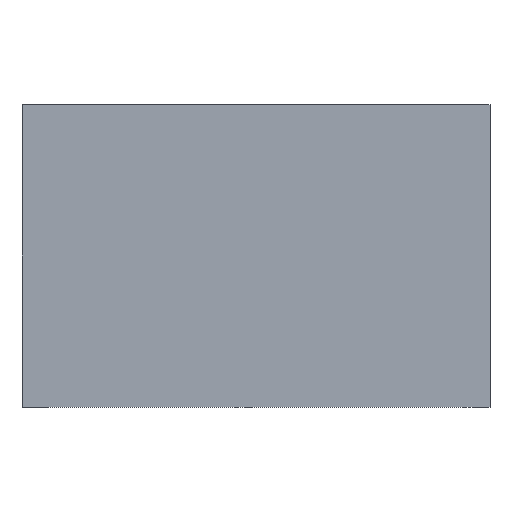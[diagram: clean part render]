
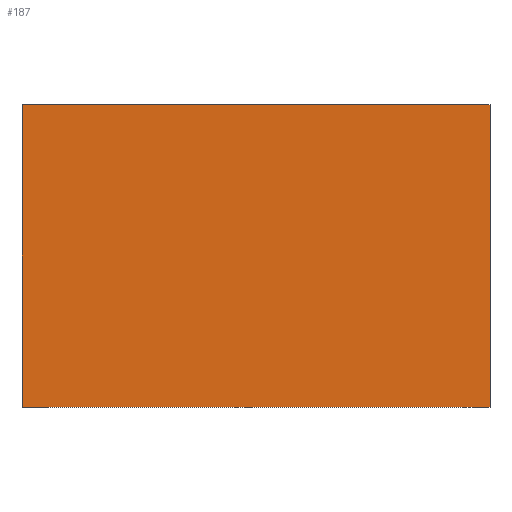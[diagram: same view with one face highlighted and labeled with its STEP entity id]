
A CAD part, front view. The second image highlights one B-rep face of the part: STEP entity #187.
In plain terms, the highlighted planar face has unit normal (0, -1, 0).
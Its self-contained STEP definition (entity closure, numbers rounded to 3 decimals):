
#5 = VERTEX_POINT ( 'NONE', #290 ) ;
#20 = VECTOR ( 'NONE', #412, 1000. ) ;
#29 = CARTESIAN_POINT ( 'NONE',  ( 0., 0., 0. ) ) ;
#47 = EDGE_CURVE ( 'NONE', #5, #134, #660, .T. ) ;
#118 = VECTOR ( 'NONE', #381, 1000. ) ;
#134 = VERTEX_POINT ( 'NONE', #29 ) ;
#140 = DIRECTION ( 'NONE',  ( -1., 0., 0. ) ) ;
#148 = EDGE_CURVE ( 'NONE', #134, #473, #482, .T. ) ;
#150 = EDGE_LOOP ( 'NONE', ( #527, #495, #673, #310 ) ) ;
#170 = CARTESIAN_POINT ( 'NONE',  ( 0., 0., -97.5 ) ) ;
#176 = CARTESIAN_POINT ( 'NONE',  ( 151., 0., -97.5 ) ) ;
#187 = ADVANCED_FACE ( 'NONE', ( #641 ), #523, .T. ) ;
#196 = VECTOR ( 'NONE', #140, 1000. ) ;
#290 = CARTESIAN_POINT ( 'NONE',  ( 0., 0., -97.5 ) ) ;
#297 = VERTEX_POINT ( 'NONE', #176 ) ;
#310 = ORIENTED_EDGE ( 'NONE', *, *, #148, .F. ) ;
#332 = LINE ( 'NONE', #170, #196 ) ;
#356 = VECTOR ( 'NONE', #454, 1000. ) ;
#381 = DIRECTION ( 'NONE',  ( 0., 0., 1. ) ) ;
#409 = DIRECTION ( 'NONE',  ( 0., -1., 0. ) ) ;
#412 = DIRECTION ( 'NONE',  ( 1., 0., 0. ) ) ;
#414 = CARTESIAN_POINT ( 'NONE',  ( 0., 0., 0. ) ) ;
#416 = CARTESIAN_POINT ( 'NONE',  ( 0., 0., 0. ) ) ;
#454 = DIRECTION ( 'NONE',  ( 0., 0., -1. ) ) ;
#462 = CARTESIAN_POINT ( 'NONE',  ( 151., 0., 0. ) ) ;
#473 = VERTEX_POINT ( 'NONE', #499 ) ;
#482 = LINE ( 'NONE', #414, #20 ) ;
#495 = ORIENTED_EDGE ( 'NONE', *, *, #690, .F. ) ;
#499 = CARTESIAN_POINT ( 'NONE',  ( 151., 0., 0. ) ) ;
#501 = DIRECTION ( 'NONE',  ( 0., 0., -1. ) ) ;
#509 = EDGE_CURVE ( 'NONE', #473, #297, #601, .T. ) ;
#523 = PLANE ( 'NONE',  #575 ) ;
#527 = ORIENTED_EDGE ( 'NONE', *, *, #47, .F. ) ;
#537 = CARTESIAN_POINT ( 'NONE',  ( 0., 0., 0. ) ) ;
#575 = AXIS2_PLACEMENT_3D ( 'NONE', #416, #409, #501 ) ;
#601 = LINE ( 'NONE', #462, #356 ) ;
#641 = FACE_OUTER_BOUND ( 'NONE', #150, .T. ) ;
#660 = LINE ( 'NONE', #537, #118 ) ;
#673 = ORIENTED_EDGE ( 'NONE', *, *, #509, .F. ) ;
#690 = EDGE_CURVE ( 'NONE', #297, #5, #332, .T. ) ;
